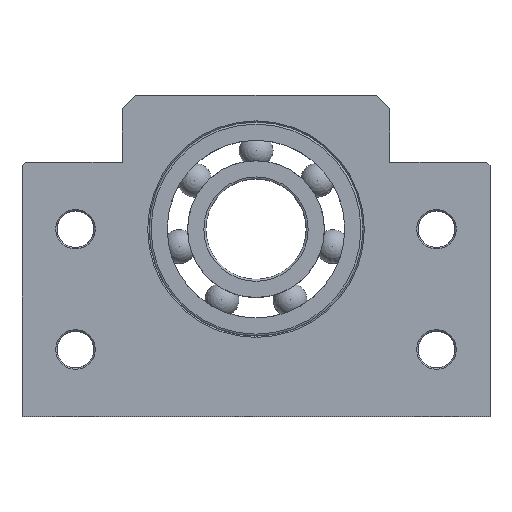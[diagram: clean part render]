
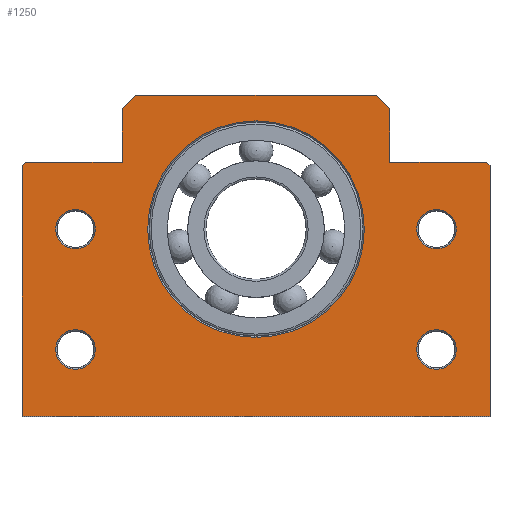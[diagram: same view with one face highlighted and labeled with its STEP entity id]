
A CAD part, top view. The second image highlights one B-rep face of the part: STEP entity #1250.
In plain terms, the highlighted planar face has unit normal (0, 0, 1).
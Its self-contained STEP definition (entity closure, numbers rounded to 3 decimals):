
#144=LINE($,#2047,#180);
#145=LINE($,#2049,#181);
#146=LINE($,#2051,#182);
#147=LINE($,#2053,#183);
#148=LINE($,#2055,#184);
#149=LINE($,#2057,#185);
#150=LINE($,#2059,#186);
#151=LINE($,#2061,#187);
#152=LINE($,#2063,#188);
#153=LINE($,#2065,#189);
#154=LINE($,#2067,#190);
#155=LINE($,#2068,#191);
#180=VECTOR($,#1537,0.707);
#181=VECTOR($,#1538,37.5);
#182=VECTOR($,#1539,70.);
#183=VECTOR($,#1540,37.5);
#184=VECTOR($,#1541,0.707);
#185=VECTOR($,#1542,14.5);
#186=VECTOR($,#1543,8.);
#187=VECTOR($,#1544,2.828);
#188=VECTOR($,#1545,36.);
#189=VECTOR($,#1546,2.828);
#190=VECTOR($,#1547,8.);
#191=VECTOR($,#1548,14.5);
#205=PLANE($,#1343);
#241=FACE_BOUND($,#398,.T.);
#242=FACE_BOUND($,#399,.T.);
#243=FACE_BOUND($,#400,.T.);
#244=FACE_BOUND($,#401,.T.);
#245=FACE_BOUND($,#402,.T.);
#246=FACE_BOUND($,#403,.T.);
#398=EDGE_LOOP($,(#925));
#399=EDGE_LOOP($,(#926));
#400=EDGE_LOOP($,(#927,#928,#929,#930,#931,#932,#933,#934,#935,#936,#937,
#938));
#401=EDGE_LOOP($,(#939));
#402=EDGE_LOOP($,(#940));
#403=EDGE_LOOP($,(#941));
#527=CIRCLE($,#1342,16.2);
#528=CIRCLE($,#1344,2.95);
#529=CIRCLE($,#1345,2.95);
#530=CIRCLE($,#1346,2.95);
#531=CIRCLE($,#1347,2.95);
#613=VERTEX_POINT($,#2038);
#614=VERTEX_POINT($,#2041);
#615=VERTEX_POINT($,#2043);
#616=VERTEX_POINT($,#2045);
#617=VERTEX_POINT($,#2046);
#618=VERTEX_POINT($,#2048);
#619=VERTEX_POINT($,#2050);
#620=VERTEX_POINT($,#2052);
#621=VERTEX_POINT($,#2054);
#622=VERTEX_POINT($,#2056);
#623=VERTEX_POINT($,#2058);
#624=VERTEX_POINT($,#2060);
#625=VERTEX_POINT($,#2062);
#626=VERTEX_POINT($,#2064);
#627=VERTEX_POINT($,#2066);
#628=VERTEX_POINT($,#2069);
#629=VERTEX_POINT($,#2071);
#743=EDGE_CURVE($,#613,#613,#527,.T.);
#744=EDGE_CURVE($,#614,#614,#528,.T.);
#745=EDGE_CURVE($,#615,#615,#529,.T.);
#746=EDGE_CURVE($,#616,#617,#144,.T.);
#747=EDGE_CURVE($,#616,#618,#145,.T.);
#748=EDGE_CURVE($,#618,#619,#146,.T.);
#749=EDGE_CURVE($,#619,#620,#147,.T.);
#750=EDGE_CURVE($,#621,#620,#148,.T.);
#751=EDGE_CURVE($,#621,#622,#149,.T.);
#752=EDGE_CURVE($,#622,#623,#150,.T.);
#753=EDGE_CURVE($,#624,#623,#151,.T.);
#754=EDGE_CURVE($,#624,#625,#152,.T.);
#755=EDGE_CURVE($,#626,#625,#153,.T.);
#756=EDGE_CURVE($,#626,#627,#154,.T.);
#757=EDGE_CURVE($,#627,#617,#155,.T.);
#758=EDGE_CURVE($,#628,#628,#530,.T.);
#759=EDGE_CURVE($,#629,#629,#531,.T.);
#925=ORIENTED_EDGE($,*,*,#744,.F.);
#926=ORIENTED_EDGE($,*,*,#745,.F.);
#927=ORIENTED_EDGE($,*,*,#746,.F.);
#928=ORIENTED_EDGE($,*,*,#747,.T.);
#929=ORIENTED_EDGE($,*,*,#748,.T.);
#930=ORIENTED_EDGE($,*,*,#749,.T.);
#931=ORIENTED_EDGE($,*,*,#750,.F.);
#932=ORIENTED_EDGE($,*,*,#751,.T.);
#933=ORIENTED_EDGE($,*,*,#752,.T.);
#934=ORIENTED_EDGE($,*,*,#753,.F.);
#935=ORIENTED_EDGE($,*,*,#754,.T.);
#936=ORIENTED_EDGE($,*,*,#755,.F.);
#937=ORIENTED_EDGE($,*,*,#756,.T.);
#938=ORIENTED_EDGE($,*,*,#757,.T.);
#939=ORIENTED_EDGE($,*,*,#758,.F.);
#940=ORIENTED_EDGE($,*,*,#759,.F.);
#941=ORIENTED_EDGE($,*,*,#743,.F.);
#1250=ADVANCED_FACE($,(#241,#242,#243,#244,#245,#246),#205,.T.);
#1342=AXIS2_PLACEMENT_3D($,#2039,#1529,#1530);
#1343=AXIS2_PLACEMENT_3D($,#2040,#1531,#1532);
#1344=AXIS2_PLACEMENT_3D($,#2042,#1533,#1534);
#1345=AXIS2_PLACEMENT_3D($,#2044,#1535,#1536);
#1346=AXIS2_PLACEMENT_3D($,#2070,#1549,#1550);
#1347=AXIS2_PLACEMENT_3D($,#2072,#1551,#1552);
#1529=DIRECTION('center_axis',(0.,0.,1.));
#1530=DIRECTION('ref_axis',(-1.,0.,0.));
#1531=DIRECTION('center_axis',(0.,0.,1.));
#1532=DIRECTION('ref_axis',(1.,0.,0.));
#1533=DIRECTION('center_axis',(0.,0.,1.));
#1534=DIRECTION('ref_axis',(-1.,0.,0.));
#1535=DIRECTION('center_axis',(0.,0.,1.));
#1536=DIRECTION('ref_axis',(-1.,0.,0.));
#1537=DIRECTION($,(0.707,0.707,0.));
#1538=DIRECTION($,(0.,-1.,0.));
#1539=DIRECTION($,(1.,0.,0.));
#1540=DIRECTION($,(0.,1.,0.));
#1541=DIRECTION($,(0.707,-0.707,0.));
#1542=DIRECTION($,(-1.,0.,0.));
#1543=DIRECTION($,(0.,1.,0.));
#1544=DIRECTION($,(0.707,-0.707,0.));
#1545=DIRECTION($,(-1.,0.,0.));
#1546=DIRECTION($,(0.707,0.707,0.));
#1547=DIRECTION($,(0.,-1.,0.));
#1548=DIRECTION($,(-1.,0.,0.));
#1549=DIRECTION('center_axis',(0.,0.,1.));
#1550=DIRECTION('ref_axis',(-1.,0.,0.));
#1551=DIRECTION('center_axis',(0.,0.,1.));
#1552=DIRECTION('ref_axis',(-1.,0.,0.));
#2038=CARTESIAN_POINT('',(16.2,28.,20.));
#2039=CARTESIAN_POINT('Origin',(0.,28.,20.));
#2040=CARTESIAN_POINT('Origin',(16.596,23.096,20.));
#2041=CARTESIAN_POINT('',(29.95,10.,20.));
#2042=CARTESIAN_POINT('Origin',(27.,10.,20.));
#2043=CARTESIAN_POINT('',(-24.05,10.,20.));
#2044=CARTESIAN_POINT('Origin',(-27.,10.,20.));
#2045=CARTESIAN_POINT('',(-35.,37.5,20.));
#2046=CARTESIAN_POINT('',(-34.5,38.,20.));
#2047=CARTESIAN_POINT($,(-25.577,46.923,20.));
#2048=CARTESIAN_POINT('',(-35.,0.,20.));
#2049=CARTESIAN_POINT($,(-35.,38.,20.));
#2050=CARTESIAN_POINT('',(35.,0.,20.));
#2051=CARTESIAN_POINT($,(-35.,0.,20.));
#2052=CARTESIAN_POINT('',(35.,37.5,20.));
#2053=CARTESIAN_POINT($,(35.,0.,20.));
#2054=CARTESIAN_POINT('',(34.5,38.,20.));
#2055=CARTESIAN_POINT($,(33.875,38.625,20.));
#2056=CARTESIAN_POINT('',(20.,38.,20.));
#2057=CARTESIAN_POINT($,(35.,38.,20.));
#2058=CARTESIAN_POINT('',(20.,46.,20.));
#2059=CARTESIAN_POINT($,(20.,38.,20.));
#2060=CARTESIAN_POINT('',(18.,48.,20.));
#2061=CARTESIAN_POINT($,(24.375,41.625,20.));
#2062=CARTESIAN_POINT('',(-18.,48.,20.));
#2063=CARTESIAN_POINT($,(20.,48.,20.));
#2064=CARTESIAN_POINT('',(-20.,46.,20.));
#2065=CARTESIAN_POINT($,(-16.077,49.923,20.));
#2066=CARTESIAN_POINT('',(-20.,38.,20.));
#2067=CARTESIAN_POINT($,(-20.,48.,20.));
#2068=CARTESIAN_POINT($,(-20.,38.,20.));
#2069=CARTESIAN_POINT('',(-24.05,28.,20.));
#2070=CARTESIAN_POINT('Origin',(-27.,28.,20.));
#2071=CARTESIAN_POINT('',(29.95,28.,20.));
#2072=CARTESIAN_POINT('Origin',(27.,28.,20.));
